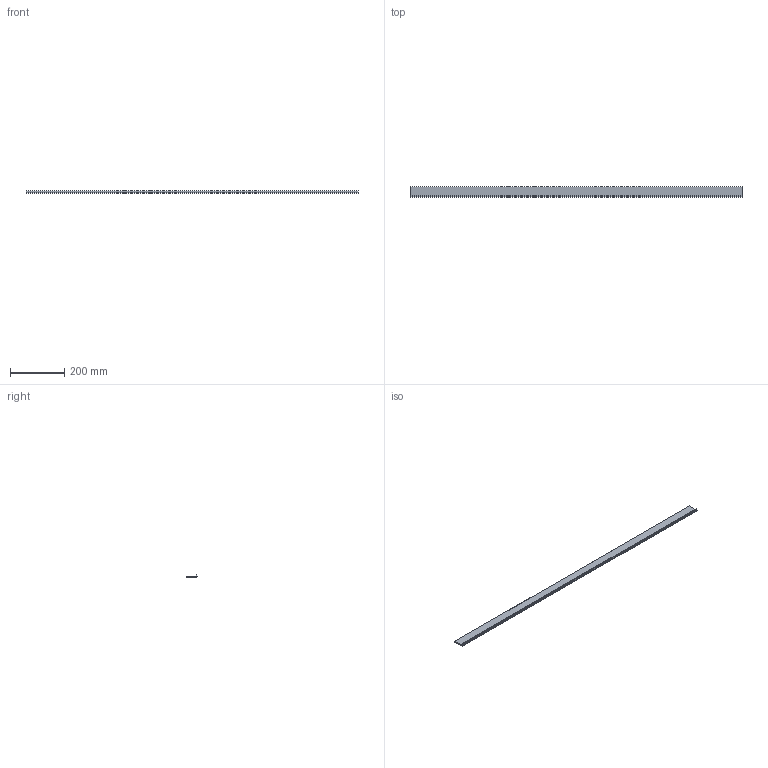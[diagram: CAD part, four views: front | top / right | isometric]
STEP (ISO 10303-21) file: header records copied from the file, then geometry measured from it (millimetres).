
FILE_DESCRIPTION((''),'2;1');
FILE_NAME('GTB05A08','2017-03-16T',('jenni.wallner'),(''),'PRO/ENGINEER BY PARAMETRIC TECHNOLOGY CORPORATION, 2012420','PRO/ENGINEER BY PARAMETRIC TECHNOLOGY CORPORATION, 2012420','');
FILE_SCHEMA(('CONFIG_CONTROL_DESIGN'));
Length unit declared in the file: inch
Products named in the file (1): GTB05A08
Bounding box: 1219.2 x 40.13 x 8.38 mm (x, y, z)
Volume: 162519.9 mm3; surface area: 116569 mm2
Topology: 1 solids, 1 shells, 22 faces, 60 edges, 40 vertices
Faces by surface type: plane 12, cylinder 10
Entity records: 750 total; most frequent: CARTESIAN_POINT 143, ORIENTED_EDGE 120, DIRECTION 114, EDGE_CURVE 60, VECTOR 40, LINE 40, VERTEX_POINT 40, AXIS2_PLACEMENT_3D 37
